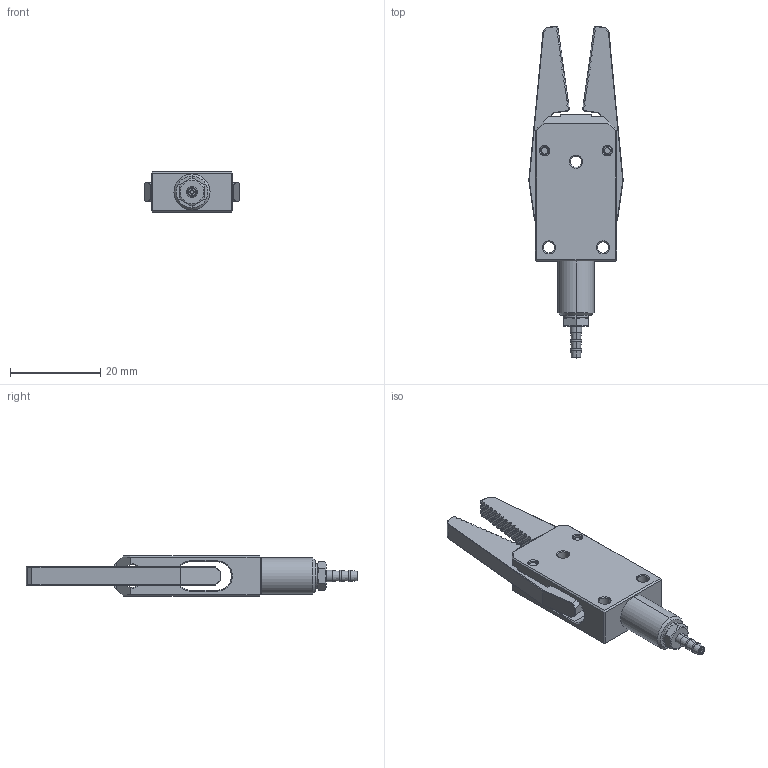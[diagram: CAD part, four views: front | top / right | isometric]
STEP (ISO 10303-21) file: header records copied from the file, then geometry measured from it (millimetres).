
FILE_DESCRIPTION (( 'STEP AP214' ), '1' );
FILE_NAME ('GRS08.STEP', '2019-11-12T01:43:23', ( '微软用户' ), ( '微软中国' ), 'SwSTEP 2.0', 'SolidWorks 2016', '' );
FILE_SCHEMA (( 'AUTOMOTIVE_DESIGN' ));
Length unit declared in the file: millimetre
Products named in the file (1): GRS08
Bounding box: 20.94 x 73.59 x 9 mm (x, y, z)
Volume: 5215.9 mm3; surface area: 5202 mm2
Topology: 6 solids, 6 shells, 501 faces, 1331 edges, 844 vertices
Faces by surface type: plane 280, cone 87, bspline 74, cylinder 56, torus 4
Entity records: 21113 total; most frequent: CARTESIAN_POINT 3177, ORIENTED_EDGE 2662, DIRECTION 2389, EDGE_CURVE 1331, VECTOR 1037, LINE 1037, VERTEX_POINT 844, AXIS2_PLACEMENT_3D 676
